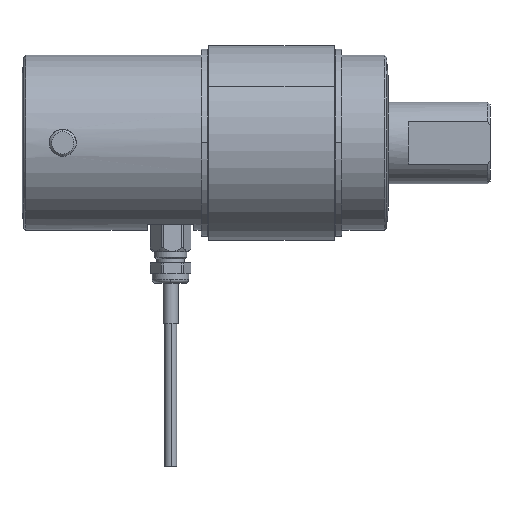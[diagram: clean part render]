
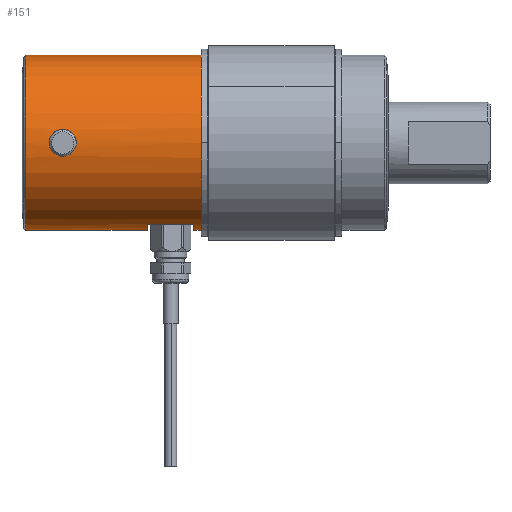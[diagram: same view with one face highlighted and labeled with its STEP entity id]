
A CAD part, top view. The second image highlights one B-rep face of the part: STEP entity #151.
In plain terms, the highlighted cylindrical face has radius 21.5 mm (diameter 43 mm), a partial arc.
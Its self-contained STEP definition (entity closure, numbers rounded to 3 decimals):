
#151=ADVANCED_FACE('',(#336,#337),#338,.T.);
#336=FACE_BOUND('',#731,.T.);
#337=FACE_OUTER_BOUND('',#732,.T.);
#338=CYLINDRICAL_SURFACE('',#733,21.5);
#731=EDGE_LOOP('',(#1274,#1275,#1276));
#732=EDGE_LOOP('',(#1277,#1278,#1279,#1280,#1281,#1282,#1283,#1284));
#733=AXIS2_PLACEMENT_3D('',#1285,#1286,#1287);
#1274=ORIENTED_EDGE('',*,*,#2353,.T.);
#1275=ORIENTED_EDGE('',*,*,#2354,.T.);
#1276=ORIENTED_EDGE('',*,*,#2355,.T.);
#1277=ORIENTED_EDGE('',*,*,#2356,.F.);
#1278=ORIENTED_EDGE('',*,*,#2357,.F.);
#1279=ORIENTED_EDGE('',*,*,#2358,.F.);
#1280=ORIENTED_EDGE('',*,*,#2359,.T.);
#1281=ORIENTED_EDGE('',*,*,#2360,.T.);
#1282=ORIENTED_EDGE('',*,*,#2361,.T.);
#1283=ORIENTED_EDGE('',*,*,#2362,.F.);
#1284=ORIENTED_EDGE('',*,*,#2363,.F.);
#1285=CARTESIAN_POINT('',(-39.76,0.0,0.0));
#1286=DIRECTION('',(1.0,0.0,0.0));
#1287=DIRECTION('',(0.0,1.0,0.0));
#2353=EDGE_CURVE('',#2814,#2815,#2816,.T.);
#2354=EDGE_CURVE('',#2815,#2817,#2818,.T.);
#2355=EDGE_CURVE('',#2817,#2814,#2819,.T.);
#2356=EDGE_CURVE('',#2820,#2821,#2822,.T.);
#2357=EDGE_CURVE('',#2823,#2820,#2824,.T.);
#2358=EDGE_CURVE('',#2825,#2823,#2826,.T.);
#2359=EDGE_CURVE('',#2825,#2827,#2828,.T.);
#2360=EDGE_CURVE('',#2827,#2829,#2830,.T.);
#2361=EDGE_CURVE('',#2829,#2831,#2832,.T.);
#2362=EDGE_CURVE('',#2833,#2831,#2834,.T.);
#2363=EDGE_CURVE('',#2821,#2833,#2835,.T.);
#2814=VERTEX_POINT('',#3579);
#2815=VERTEX_POINT('',#3580);
#2816=B_SPLINE_CURVE_WITH_KNOTS('',3,(#3581,#3582,#3583,#3584,#3585,#3586,#3587,#3588,#3589,#3590),.UNSPECIFIED.,.F.,.F.,(4,2,2,2,4),(0.0,0.125,0.251,0.376,0.502),.UNSPECIFIED.);
#2817=VERTEX_POINT('',#3591);
#2818=B_SPLINE_CURVE_WITH_KNOTS('',3,(#3592,#3593,#3594,#3595,#3596,#3597,#3598,#3599,#3600,#3601,#3602,#3603,#3604,#3605,#3606,#3607,#3608,#3609),.UNSPECIFIED.,.F.,.F.,(4,2,2,2,2,2,2,2,4),(0.502,0.627,0.752,0.878,1.003,1.129,1.254,1.379,1.505),.UNSPECIFIED.);
#2819=B_SPLINE_CURVE_WITH_KNOTS('',3,(#3610,#3611,#3612,#3613,#3614,#3615,#3616,#3617,#3618,#3619),.UNSPECIFIED.,.F.,.F.,(4,2,2,2,4),(1.505,1.63,1.756,1.881,2.007),.UNSPECIFIED.);
#2820=VERTEX_POINT('',#3620);
#2821=VERTEX_POINT('',#3621);
#2822=LINE('',#3622,#3623);
#2823=VERTEX_POINT('',#3624);
#2824=CIRCLE('',#3625,21.5);
#2825=VERTEX_POINT('',#3626);
#2826=LINE('',#3627,#3628);
#2827=VERTEX_POINT('',#3629);
#2828=CIRCLE('',#3630,21.5);
#2829=VERTEX_POINT('',#3631);
#2830=LINE('',#3632,#3633);
#2831=VERTEX_POINT('',#3634);
#2832=CIRCLE('',#3635,21.5);
#2833=VERTEX_POINT('',#3636);
#2834=LINE('',#3637,#3638);
#2835=CIRCLE('',#3639,21.5);
#3579=CARTESIAN_POINT('',(-51.96,-3.324,21.242));
#3580=CARTESIAN_POINT('',(-55.283,0.,21.5));
#3581=CARTESIAN_POINT('',(-51.96,-3.324,21.242));
#3582=CARTESIAN_POINT('',(-52.378,-3.324,21.242));
#3583=CARTESIAN_POINT('',(-52.823,-3.24,21.255));
#3584=CARTESIAN_POINT('',(-53.642,-2.9,21.304));
#3585=CARTESIAN_POINT('',(-54.015,-2.645,21.339));
#3586=CARTESIAN_POINT('',(-54.605,-2.055,21.404));
#3587=CARTESIAN_POINT('',(-54.86,-1.682,21.438));
#3588=CARTESIAN_POINT('',(-55.2,-0.863,21.487));
#3589=CARTESIAN_POINT('',(-55.283,-0.418,21.5));
#3590=CARTESIAN_POINT('',(-55.283,0.,21.5));
#3591=CARTESIAN_POINT('',(-48.636,0.,21.5));
#3592=CARTESIAN_POINT('',(-55.283,0.,21.5));
#3593=CARTESIAN_POINT('',(-55.283,0.418,21.5));
#3594=CARTESIAN_POINT('',(-55.2,0.863,21.487));
#3595=CARTESIAN_POINT('',(-54.86,1.682,21.438));
#3596=CARTESIAN_POINT('',(-54.605,2.055,21.404));
#3597=CARTESIAN_POINT('',(-54.015,2.645,21.339));
#3598=CARTESIAN_POINT('',(-53.642,2.9,21.304));
#3599=CARTESIAN_POINT('',(-52.823,3.24,21.255));
#3600=CARTESIAN_POINT('',(-52.378,3.324,21.242));
#3601=CARTESIAN_POINT('',(-51.542,3.324,21.242));
#3602=CARTESIAN_POINT('',(-51.096,3.24,21.255));
#3603=CARTESIAN_POINT('',(-50.278,2.9,21.304));
#3604=CARTESIAN_POINT('',(-49.904,2.645,21.339));
#3605=CARTESIAN_POINT('',(-49.315,2.055,21.404));
#3606=CARTESIAN_POINT('',(-49.059,1.682,21.438));
#3607=CARTESIAN_POINT('',(-48.72,0.863,21.487));
#3608=CARTESIAN_POINT('',(-48.636,0.418,21.5));
#3609=CARTESIAN_POINT('',(-48.636,0.,21.5));
#3610=CARTESIAN_POINT('',(-48.636,0.,21.5));
#3611=CARTESIAN_POINT('',(-48.636,-0.418,21.5));
#3612=CARTESIAN_POINT('',(-48.72,-0.863,21.487));
#3613=CARTESIAN_POINT('',(-49.059,-1.682,21.438));
#3614=CARTESIAN_POINT('',(-49.315,-2.055,21.404));
#3615=CARTESIAN_POINT('',(-49.904,-2.645,21.339));
#3616=CARTESIAN_POINT('',(-50.278,-2.9,21.304));
#3617=CARTESIAN_POINT('',(-51.096,-3.24,21.255));
#3618=CARTESIAN_POINT('',(-51.542,-3.324,21.242));
#3619=CARTESIAN_POINT('',(-51.96,-3.324,21.242));
#3620=CARTESIAN_POINT('',(-61.06,21.5,0.));
#3621=CARTESIAN_POINT('',(-17.96,21.5,0.0));
#3622=CARTESIAN_POINT('',(-39.76,21.5,0.));
#3623=VECTOR('',#4655,1.0);
#3624=CARTESIAN_POINT('',(-61.06,-21.5,0.));
#3625=AXIS2_PLACEMENT_3D('',#4656,#4657,#4658);
#3626=CARTESIAN_POINT('',(-31.21,-21.5,0.));
#3627=CARTESIAN_POINT('',(-39.76,-21.5,0.));
#3628=VECTOR('',#4659,1.0);
#3629=CARTESIAN_POINT('',(-31.21,-20.0,7.89));
#3630=AXIS2_PLACEMENT_3D('',#4660,#4661,#4662);
#3631=CARTESIAN_POINT('',(-19.71,-20.0,7.89));
#3632=CARTESIAN_POINT('',(-31.21,-20.0,7.89));
#3633=VECTOR('',#4663,11.5);
#3634=CARTESIAN_POINT('',(-19.71,-21.5,0.));
#3635=AXIS2_PLACEMENT_3D('',#4664,#4665,#4666);
#3636=CARTESIAN_POINT('',(-17.96,-21.5,0.));
#3637=CARTESIAN_POINT('',(-39.76,-21.5,0.));
#3638=VECTOR('',#4667,1.0);
#3639=AXIS2_PLACEMENT_3D('',#4668,#4669,#4670);
#4655=DIRECTION('',(1.0,0.0,0.0));
#4656=CARTESIAN_POINT('',(-61.06,0.0,0.0));
#4657=DIRECTION('',(-1.0,0.0,0.0));
#4658=DIRECTION('',(0.0,-1.0,0.0));
#4659=DIRECTION('',(-1.0,0.0,0.0));
#4660=CARTESIAN_POINT('',(-31.21,0.0,0.0));
#4661=DIRECTION('',(-1.0,0.0,0.0));
#4662=DIRECTION('',(0.0,1.0,0.0));
#4663=DIRECTION('',(1.0,0.0,0.0));
#4664=CARTESIAN_POINT('',(-19.71,0.0,0.0));
#4665=DIRECTION('',(1.0,0.0,0.0));
#4666=DIRECTION('',(0.0,1.0,0.0));
#4667=DIRECTION('',(-1.0,0.0,0.0));
#4668=CARTESIAN_POINT('',(-17.96,0.0,0.0));
#4669=DIRECTION('',(1.0,0.0,0.0));
#4670=DIRECTION('',(0.0,1.0,0.0));
